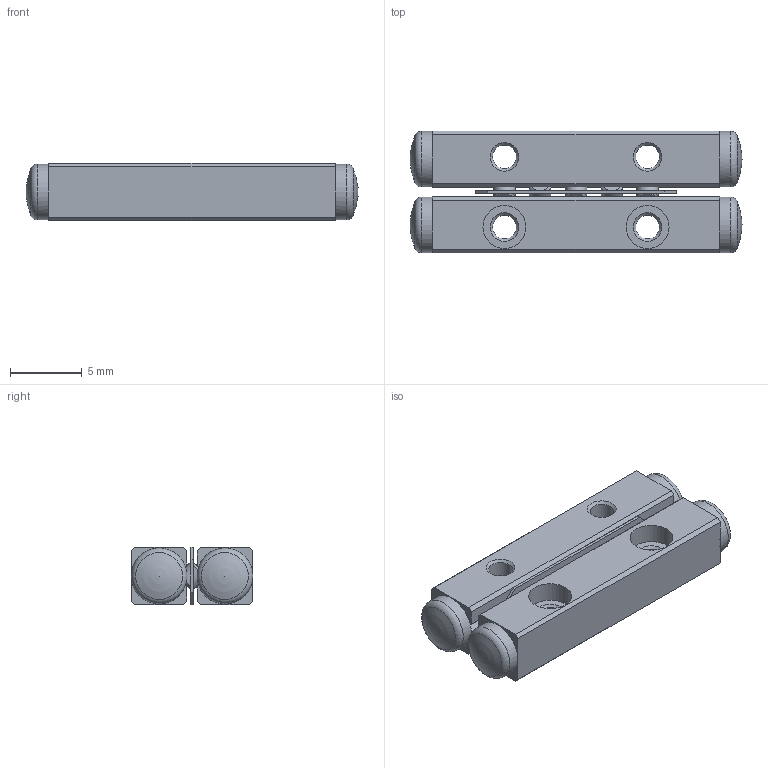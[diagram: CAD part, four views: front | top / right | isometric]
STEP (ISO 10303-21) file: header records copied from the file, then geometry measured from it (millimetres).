
FILE_DESCRIPTION(/* description */ ('STEP AP214'),/* implementation_level */ '2;1');
FILE_NAME(/* name */ 'VR1-20HX5Z(0)',/* time_stamp */ '2024-09-13T01:55:10+02:00',/* author */ ('License CC BY-ND 4.0'),/* organization */ ('CADENAS'),/* preprocessor_version */ 'ST-DEVELOPER v19.3',/* originating_system */ 'PARTsolutions',/* authorisation */ ' ');
FILE_SCHEMA (('AUTOMOTIVE_DESIGN {1 0 10303 214 3 1 1}'));
Length unit declared in the file: millimetre
Products named in the file (4): VR1-20HX5Z(0); VR1-20*5Z Roller guide; VR1-20*5Z Roller cage; VR1-20*5Z Roller guide; Top
Assembly tree (3 placements, depth 2):
  VR1-20HX5Z(0)
    VR1-20*5Z Roller guide
    VR1-20*5Z Roller cage
    VR1-20*5Z Roller guide; Top
Bounding box: 23.2 x 8.5 x 4 mm (x, y, z)
Volume: 619 mm3; surface area: 976.7 mm2
Topology: 3 solids, 3 shells, 131 faces, 341 edges, 216 vertices
Faces by surface type: plane 88, cone 18, cylinder 17, torus 8
Full cylindrical faces by diameter (mm): 1.5 x5, 1.65 x4, 3 x4, 3.9 x4
Entity records: 3817 total; most frequent: DIRECTION 640, CARTESIAN_POINT 629, ORIENTED_EDGE 572, EDGE_CURVE 286, AXIS2_PLACEMENT_3D 219, VERTEX_POINT 208, FACE_BOUND 206, LINE 202
